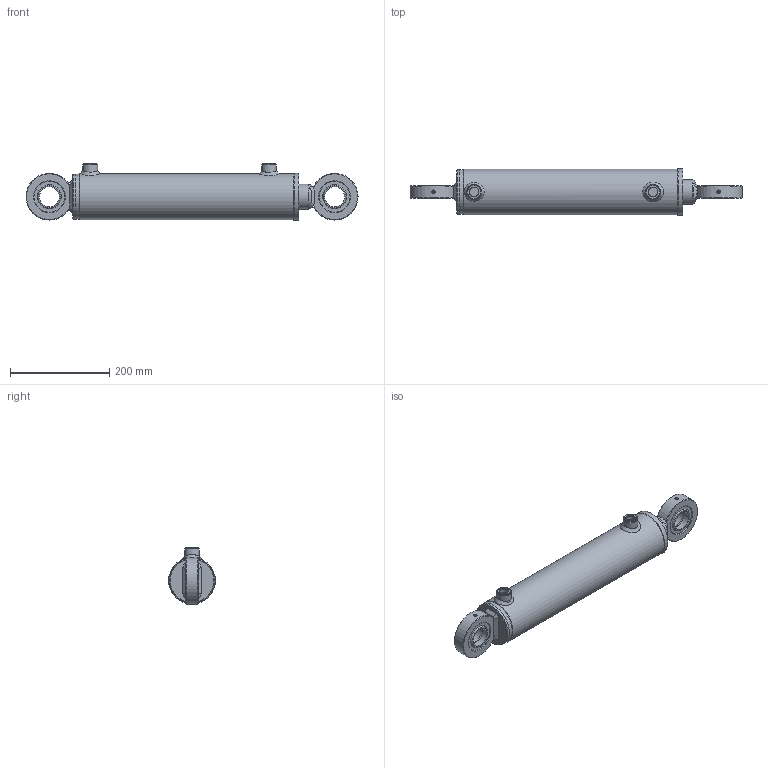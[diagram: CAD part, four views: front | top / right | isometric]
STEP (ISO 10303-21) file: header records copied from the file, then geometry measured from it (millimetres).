
FILE_DESCRIPTION( ( 'Unknown' ), '1' );
FILE_NAME( 'E:/LIBRERIA_3d/CILINDRI/HMC/HMC5500300.stp', 'Unknown', ( 'Unknown' ), ( 'Unknown' ), 'PSStep 17.0.49', 'Unknown', ' ' );
FILE_SCHEMA( ( 'AUTOMOTIVE_DESIGN { 1 0 10303 214 1 1 1 1 }' ) );
Length unit declared in the file: millimetre
Products named in the file (27): CT00080027; CG09508050; STL5600300-oa6; Saldatura d'angolo 1-oa4; FTM5600300-oa5; CBSC220800; CAGEG09406240; CAGE094062; CGE0400000; HM05500300; Saldatura con preparazione 1-oa2; Saldatura d'angolo 1-oa3; CF00080090; CBS0800000; CDA0002720; APG0800000; SBL5050300; Assem1; Saldatura d'angolo 1-oa0; Saldatura d'angolo 2-oa1
Assembly tree (20 placements, depth 4):
  Saldatura d'angolo 1-oa4
  Saldatura d'angolo 1-oa4
  Saldatura d'angolo 1-oa3
  Saldatura d'angolo 1-oa3
  Assem1
    CAGEG09406240  x2
      CAGE094062
      CGE0400000
    HM05500300
      Saldatura con preparazione 1-oa2
      Saldatura con preparazione 1-oa2
      CF00080090
      CBS0800000
      CDA0002720
      APG0800000  x2
      SBL5050300
      CT00080027
        CT00080027
      CG09508050
        CG09508050
      STL5600300-oa6
        FTM5600300-oa5
        CBSC220800
Bounding box: 668 x 94 x 113 mm (x, y, z)
Volume: 2265194.4 mm3; surface area: 510153.9 mm2
Topology: 24 solids, 24 shells, 360 faces, 760 edges, 463 vertices
Faces by surface type: plane 110, bspline 88, cylinder 78, cone 42, torus 36, sphere 6
Full cylindrical faces by diameter (mm): 2.5 x4, 4.25 x1, 5 x2, 8 x2, 12 x1, 18.631 x2, 19.5 x2, 20.95 x2, 26 x2, 26.4 x1, 27 x5, 30 x2, 33.2 x1, 40 x4, 41 x1, 50 x5, 53 x3, 58.6 x1, 60 x2, 62 x6, 74.16 x2, 75 x1, 78.34 x2, 79.9 x1, 80 x1, 80.3 x1, 80.5 x1, 80.6 x1, 81 x1, 82 x3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
Entity records: 18658 total; most frequent: CARTESIAN_POINT 10332, DIRECTION 1016, ORIENTED_EDGE 956, EDGE_LOOP 527, EDGE_CURVE 478, AXIS2_PLACEMENT_3D 463, FACE_OUTER_BOUND 433, VERTEX_POINT 358
